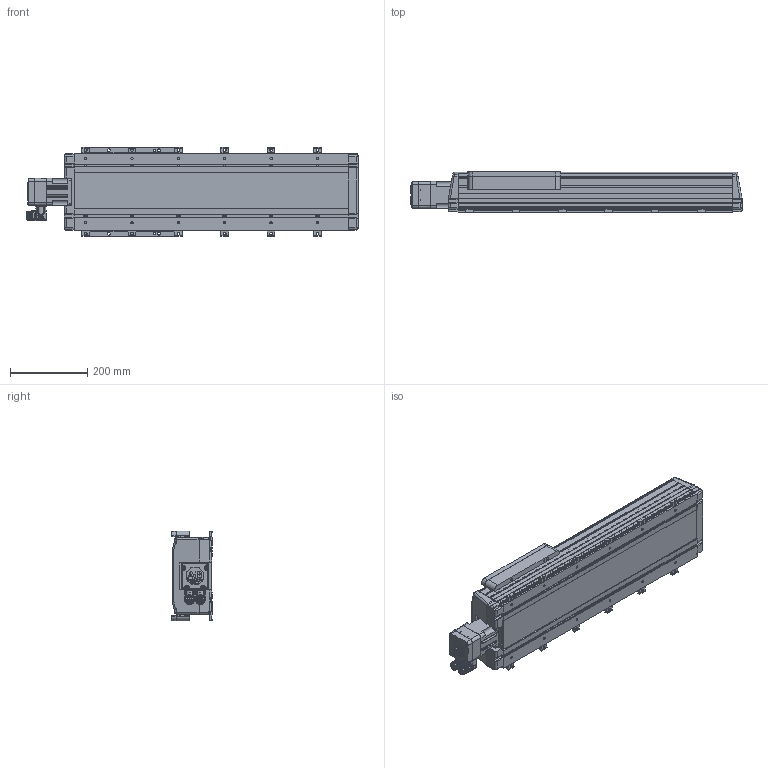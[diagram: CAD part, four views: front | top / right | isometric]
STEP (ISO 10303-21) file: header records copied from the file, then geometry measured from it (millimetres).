
FILE_DESCRIPTION((''),'2;1');
FILE_NAME('MPAS-A80421-V05S2A_ASM','2007-08-01T',('jayapriya'),(''),'PRO/ENGINEER BY PARAMETRIC TECHNOLOGY CORPORATION, 2006200','PRO/ENGINEER BY PARAMETRIC TECHNOLOGY CORPORATION, 2006200','');
FILE_SCHEMA(('CONFIG_CONTROL_DESIGN'));
Length unit declared in the file: millimetre
Products named in the file (12): PART-1_200_B_761; PART-2_200_B; PART-3_200_B; PART-4_200_B; PART-5_200_B_761; PART-6_200_B; PART-7_200_B; MPL-210-HSNG42AA; MPL-200-CONN-SIGNAL; MPL-200-CONN-POWER; MPLS-X210E-VJ42AA_ASM; MPAS-A80421-V05S2A_ASM
Assembly tree (33 placements, depth 3):
  MPAS-A80421-V05S2A_ASM
    PART-1_200_B_761
    PART-2_200_B
    PART-3_200_B
    PART-4_200_B
    PART-5_200_B_761
    PART-6_200_B  x12
    PART-7_200_B  x12
    MPLS-X210E-VJ42AA_ASM
      MPL-210-HSNG42AA
      MPL-200-CONN-SIGNAL
      MPL-200-CONN-POWER
Bounding box: 859.75 x 105.4 x 232 mm (x, y, z)
Volume: 7799438.7 mm3; surface area: 1607174.3 mm2
Topology: 32 solids, 62 shells, 2422 faces, 6623 edges, 4373 vertices
Faces by surface type: cylinder 1109, plane 1034, cone 138, torus 83, bspline 42, sphere 16
Entity records: 76829 total; most frequent: CARTESIAN_POINT 20754, ORIENTED_EDGE 11834, DIRECTION 11627, EDGE_CURVE 5919, AXIS2_PLACEMENT_3D 4251, VERTEX_POINT 3933, VECTOR 3125, LINE 3125
